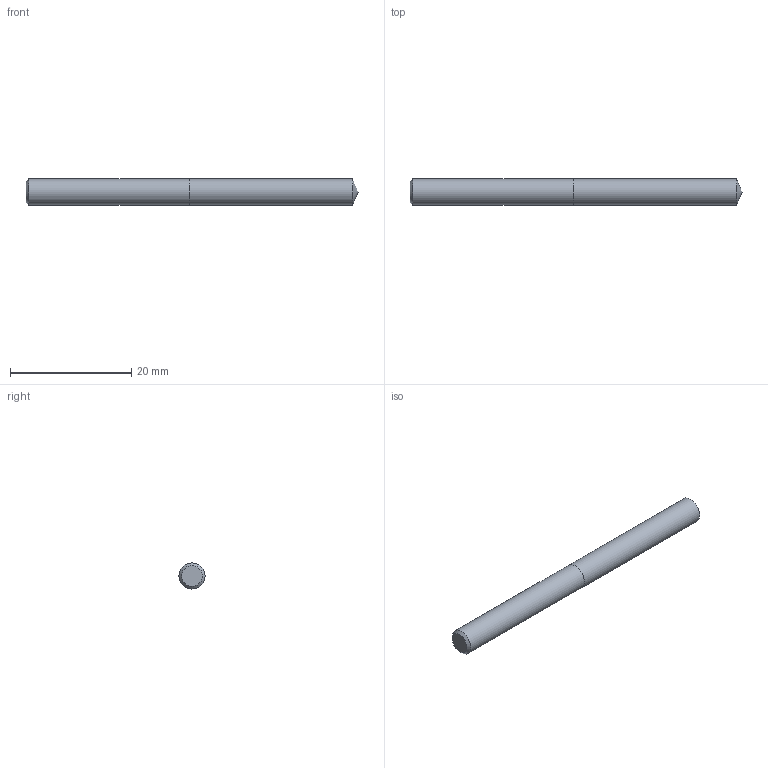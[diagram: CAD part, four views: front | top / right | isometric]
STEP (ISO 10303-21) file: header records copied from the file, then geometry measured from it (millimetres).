
FILE_DESCRIPTION (( 'STEP AP214' ), '1' );
FILE_NAME ('03-2360.STEP', '2022-06-03T06:43:04', ( 'USER' ), ( '' ), 'SwSTEP 2.0', 'SolidWorks 2018', '' );
FILE_SCHEMA (( 'AUTOMOTIVE_DESIGN' ));
Length unit declared in the file: inch
Products named in the file (1): 03-2360
Bounding box: 54.87 x 4.31 x 4.31 mm (x, y, z)
Volume: 788.9 mm3; surface area: 785.8 mm2
Topology: 2 solids, 2 shells, 7 faces, 11 edges, 7 vertices
Faces by surface type: plane 3, cylinder 2, cone 2
Full cylindrical faces by diameter (mm): 4.305 x2
Entity records: 214 total; most frequent: DIRECTION 26, CARTESIAN_POINT 18, AXIS2_PLACEMENT_3D 13, EDGE_LOOP 10, ORIENTED_EDGE 10, FACE_OUTER_BOUND 9, ADVANCED_FACE 7, DIMENSIONAL_EXPONENTS 7
